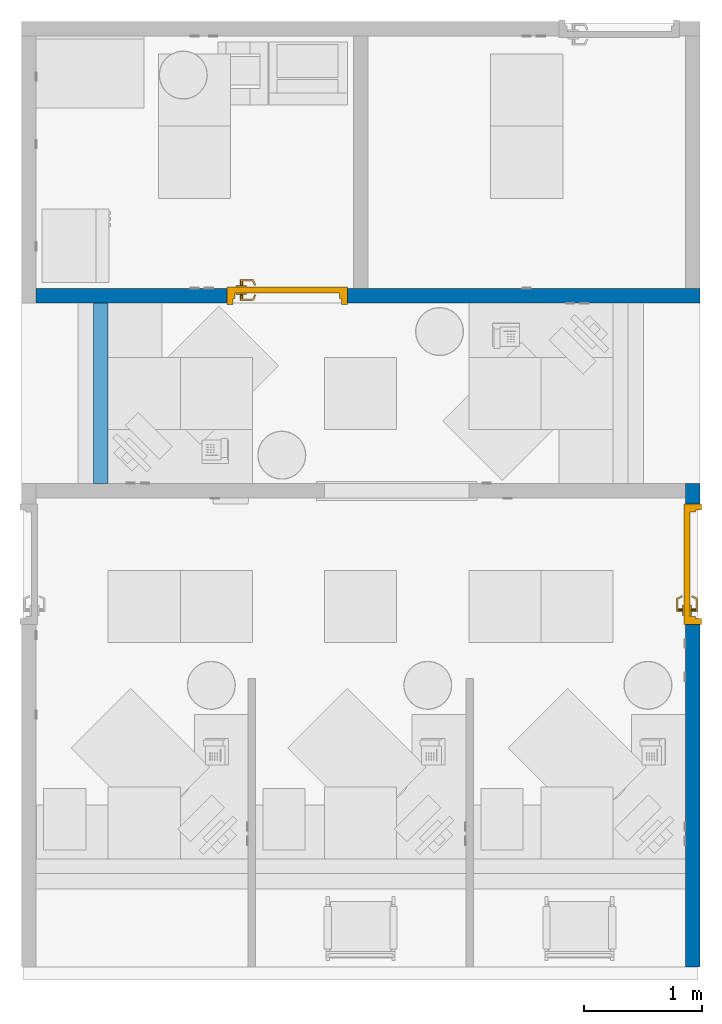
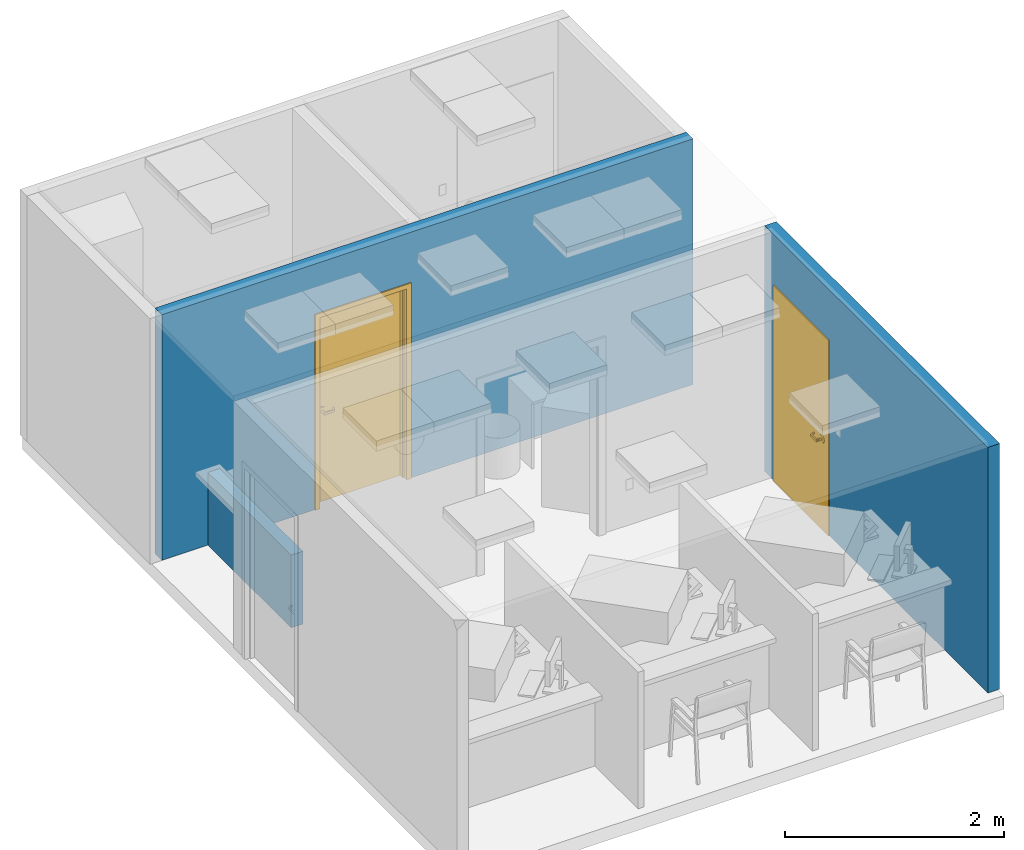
# One storey, part 3 of 20: 3 walls, 2 doors, 2 openings.
"""IFC2X3 building model written with IfcOpenShell, lengths in feet."""

from ifc_helpers import new_model, entity, si_unit, converted_unit, derived_unit, direction, frame, frame_2d, origin, place, context, subcontext, project, spatial, rectangle, extrude, faceted_brep, source, transform, mapped, material, layer, layer_set, layer_usage, type_object, type_shapes, element, fill, save


model = new_model("IFC2X3")

# Units and contexts
model_context = context("Model", 3, precision=0.0001, world=origin(), true_north=direction((6.12303176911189e-17, 1.0)))
body_context = subcontext(model_context, "Body", "Model", "MODEL_VIEW")
ifc_project = project(units=[converted_unit("LENGTHUNIT", "FOOT", entity("IfcRatioMeasure", 0.3048), si_unit("LENGTHUNIT", "METRE"), dimensions=[1, 0, 0, 0, 0, 0, 0]), converted_unit("AREAUNIT", "SQUARE FOOT", entity("IfcRatioMeasure", 0.09290304), si_unit("AREAUNIT", "SQUARE_METRE"), dimensions=[2, 0, 0, 0, 0, 0, 0]), converted_unit("VOLUMEUNIT", "CUBIC FOOT", entity("IfcRatioMeasure", 0.028316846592), si_unit("VOLUMEUNIT", "CUBIC_METRE"), dimensions=[3, 0, 0, 0, 0, 0, 0]), converted_unit("PLANEANGLEUNIT", "DEGREE", entity("IfcRatioMeasure", 0.0174532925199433), si_unit("PLANEANGLEUNIT", "RADIAN"), dimensions=[0, 0, 0, 0, 0, 0, 0]), si_unit("MASSUNIT", "GRAM", prefix="KILO"), derived_unit("MASSDENSITYUNIT", [(si_unit("MASSUNIT", "GRAM", prefix="KILO"), 1), (si_unit("LENGTHUNIT", "METRE"), -3)]), si_unit("TIMEUNIT", "SECOND"), si_unit("FREQUENCYUNIT", "HERTZ"), si_unit("THERMODYNAMICTEMPERATUREUNIT", "DEGREE_CELSIUS"), derived_unit("THERMALTRANSMITTANCEUNIT", [(si_unit("MASSUNIT", "GRAM", prefix="KILO"), 1), (si_unit("THERMODYNAMICTEMPERATUREUNIT", "KELVIN"), -1), (si_unit("TIMEUNIT", "SECOND"), -3)]), derived_unit("VOLUMETRICFLOWRATEUNIT", [(si_unit("LENGTHUNIT", "METRE"), 3), (si_unit("TIMEUNIT", "SECOND"), -1)]), si_unit("ELECTRICCURRENTUNIT", "AMPERE"), si_unit("ELECTRICVOLTAGEUNIT", "VOLT"), si_unit("POWERUNIT", "WATT"), si_unit("FORCEUNIT", "NEWTON"), si_unit("ILLUMINANCEUNIT", "LUX"), si_unit("LUMINOUSFLUXUNIT", "LUMEN"), si_unit("LUMINOUSINTENSITYUNIT", "CANDELA"), derived_unit("USERDEFINED", [(si_unit("MASSUNIT", "GRAM", prefix="KILO"), -1), (si_unit("LENGTHUNIT", "METRE"), -2), (si_unit("TIMEUNIT", "SECOND"), 3), (si_unit("LUMINOUSFLUXUNIT", "LUMEN"), 1)]), derived_unit("LINEARVELOCITYUNIT", [(si_unit("LENGTHUNIT", "METRE"), 1), (si_unit("TIMEUNIT", "SECOND"), -1)]), si_unit("PRESSUREUNIT", "PASCAL"), derived_unit("USERDEFINED", [(si_unit("LENGTHUNIT", "METRE"), -2), (si_unit("MASSUNIT", "GRAM", prefix="KILO"), 1), (si_unit("TIMEUNIT", "SECOND"), -2)])], contexts=[model_context])

# Site, building, storey
site_placement = place(None, origin())
site = spatial("IfcSite", under=ifc_project, at=site_placement, Name="Default", CompositionType="ELEMENT")
building_placement = place(site_placement, origin())
building = spatial("IfcBuilding", under=site, at=building_placement, Name="OUTPATIENT / PACT CLINIC (Ch. 265)", CompositionType="ELEMENT")
storey_placement = place(building_placement, origin())
storey = spatial("IfcBuildingStorey", under=building, at=storey_placement, Name="DATUM", CompositionType="ELEMENT", Elevation=0.0)

# Wall, opening, door
ifc_material = material(Name="<Unnamed>")
ifc_layer = layer(ifc_material, 0.40625)
ifc_layer_set = layer_set([ifc_layer], Name="Basic Wall:Interior - 4 7/8\"")
ifc_layer_usage_1 = layer_usage(ifc_layer_set, "AXIS2", "POSITIVE", -0.203125)
wall_type = type_object("IfcWallType", Name="Basic Wall:Interior - 4 7/8\"", PredefinedType="STANDARD", material=ifc_layer_set)
wall_1_placement = place(storey_placement, frame((74.4672384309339, -867.924839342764, 0.0), z_axis=(0.0, 0.0, 1.0), x_axis=(0.0, 1.0, 0.0)))
wall_1 = element("IfcWallStandardCase", 1, at=wall_1_placement, inside=storey, type_object=wall_type, material=ifc_layer_usage_1, Name="Basic Wall:Interior - 4 7/8\"", ObjectType="Basic Wall:Interior - 4 7/8\"", context=body_context, shape_type="SweptSolid", body=[
    extrude(rectangle(XDim=13.40625, YDim=0.40625, at=frame_2d((6.703125, -2.05391259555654e-15), x_axis=(-1.0, 0.0))), origin(), (0.0, 0.0, 1.0), 9.0),
])
opening_1_placement = place(wall_1_placement, frame((9.49999999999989, -0.203125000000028, 0.0)))
opening_1 = element("IfcOpeningElement", 2, at=opening_1_placement, cuts=wall_1, Name="Single - Flush:36\" x 84\":1", ObjectType="Opening", context=body_context, shape_type="SweptSolid", body=[
    extrude(rectangle(XDim=3.33333333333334, YDim=7.16666666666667, at=frame_2d((3.58333333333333, 1.66666666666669), x_axis=(0.0, 1.0))), frame((0.0, 0.0, 0.0), z_axis=(0.0, 1.0, 0.0), x_axis=(0.0, 0.0, 1.0)), (0.0, 0.0, 1.0), 0.40625),
])
door_style = type_object("IfcDoorStyle", Name="36\" x 84\"", ConstructionType="NOTDEFINED", OperationType="NOTDEFINED", ParameterTakesPrecedence=False, Sizeable=False)
shared_shape = source(origin(), body_context, "Body", "Brep", [
    faceted_brep([(-2.57149311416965, 0.23636872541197, 3.3541666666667), (-2.57149311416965, 0.23636872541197, 3.31250000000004), (-2.62432039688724, 0.12308025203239, 3.30208333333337), (-2.63071126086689, 0.109375, 3.30208333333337), (-2.63071126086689, 0.109375, 3.36458333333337), (-2.62432039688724, 0.123080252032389, 3.36458333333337), (-2.53373028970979, 0.218759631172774, 3.3541666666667), (-2.58655757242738, 0.105471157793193, 3.36458333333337), (-2.60416666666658, 0.0677083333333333, 3.36458333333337), (-2.60416666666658, 0.0677083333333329, 3.30208333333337), (-2.58655757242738, 0.105471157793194, 3.30208333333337), (-2.53373028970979, 0.218759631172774, 3.31250000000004), (-2.60416666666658, 0.109375, 3.30208333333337), (-2.60416666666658, 0.109375, 3.36458333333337), (-2.93619600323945, 0.0677083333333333, 3.29168707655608), (-2.93619600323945, 0.0677083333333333, 3.37497959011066), (-2.94639661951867, 0.0677083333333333, 3.37403912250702), (-2.95605949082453, 0.0677083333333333, 3.37063824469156), (-2.96460055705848, 0.0677083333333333, 3.36498251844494), (-2.97150356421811, 0.0677083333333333, 3.35741379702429), (-2.97635126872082, 0.0677083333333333, 3.34838956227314), (-2.97885065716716, 0.0677083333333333, 3.33845527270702), (-2.97885065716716, 0.0677083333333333, 3.32821139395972), (-2.97635126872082, 0.0677083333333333, 3.31827710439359), (-2.97150356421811, 0.0677083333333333, 3.30925286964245), (-2.96460055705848, 0.0677083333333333, 3.3016841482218), (-2.95605949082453, 0.0677083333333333, 3.29602842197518), (-2.94639661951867, 0.0677083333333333, 3.29262754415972), (-2.93619600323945, 0.109375, 3.29168707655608), (-2.92566985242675, 0.109375, 3.29338137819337), (-2.91591827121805, 0.109375, 3.29769150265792), (-2.90757973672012, 0.109375, 3.30433524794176), (-2.90120020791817, 0.109375, 3.31287762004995), (-2.89719737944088, 0.109375, 3.32275931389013), (-2.89583333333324, 0.109375, 3.33333333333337), (-2.89719737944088, 0.109375, 3.34390735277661), (-2.90120020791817, 0.109375, 3.35378904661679), (-2.90757973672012, 0.109375, 3.36233141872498), (-2.91591827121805, 0.109375, 3.36897516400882), (-2.92566985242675, 0.109375, 3.37328528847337), (-2.93619600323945, 0.109375, 3.37497959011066), (-2.94568224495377, 0.109375, 3.29247795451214), (-2.95473886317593, 0.109375, 3.2954000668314), (-2.96972778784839, 0.109375, 3.30692347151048), (-2.96289592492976, 0.109375, 3.30030065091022), (-2.97487870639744, 0.109375, 3.31492291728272), (-2.97808054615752, 0.109375, 3.32388185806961), (-2.97916666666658, 0.109375, 3.33333333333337), (-2.97808054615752, 0.109375, 3.34278480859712), (-2.97487870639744, 0.109375, 3.35174374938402), (-2.96289592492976, 0.109375, 3.36636601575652), (-2.96972778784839, 0.109375, 3.35974319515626), (-2.95473886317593, 0.109375, 3.37126659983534), (-2.94568224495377, 0.109375, 3.3741887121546), (-2.97916666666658, 0.234375, 3.33333333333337), (-2.97774690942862, 0.234375, 3.34411746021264), (-2.97358439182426, 0.234375, 3.3541666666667), (-2.95833333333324, 0.234375, 3.36941772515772), (-2.96696278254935, 0.234375, 3.36279611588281), (-2.94828412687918, 0.234375, 3.37358024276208), (-2.93749999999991, 0.234375, 3.37500000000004), (-2.92671587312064, 0.234375, 3.37358024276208), (-2.91666666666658, 0.234375, 3.36941772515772), (-2.90141560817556, 0.234375, 3.3541666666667), (-2.90803721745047, 0.234375, 3.36279611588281), (-2.8972530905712, 0.234375, 3.34411746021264), (-2.89583333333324, 0.234375, 3.33333333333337), (-2.8972530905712, 0.234375, 3.3225492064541), (-2.90141560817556, 0.234375, 3.31250000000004), (-2.91666666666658, 0.234375, 3.29724894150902), (-2.90803721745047, 0.234375, 3.30387055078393), (-2.92671587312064, 0.234375, 3.29308642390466), (-2.93749999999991, 0.234375, 3.2916666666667), (-2.94828412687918, 0.234375, 3.29308642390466), (-2.95833333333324, 0.234375, 3.29724894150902), (-2.97358439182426, 0.234375, 3.31250000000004), (-2.96696278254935, 0.234375, 3.30387055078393), (-2.97774690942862, 0.234375, 3.3225492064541), (-2.86458333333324, 0.234375, 3.4596287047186), (-2.83438026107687, 0.234375, 3.43645307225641), (-2.89975555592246, 0.234375, 3.47419751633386), (-2.93749999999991, 0.234375, 3.4791666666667), (-2.97524444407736, 0.234375, 3.47419751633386), (-3.01041666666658, 0.234375, 3.4596287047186), (-3.04061973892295, 0.234375, 3.43645307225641), (-3.06379537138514, 0.234375, 3.40625000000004), (-3.0783641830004, 0.234375, 3.37107777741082), (-3.08333333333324, 0.234375, 3.33333333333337), (-3.0783641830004, 0.234375, 3.29558888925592), (-3.06379537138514, 0.234375, 3.2604166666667), (-3.04061973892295, 0.234375, 3.23021359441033), (-3.01041666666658, 0.234375, 3.20703796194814), (-2.97524444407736, 0.234375, 3.19246915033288), (-2.93749999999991, 0.234375, 3.18750000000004), (-2.89975555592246, 0.234375, 3.19246915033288), (-2.86458333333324, 0.234375, 3.20703796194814), (-2.83438026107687, 0.234375, 3.23021359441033), (-2.81120462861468, 0.234375, 3.2604166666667), (-2.79663581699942, 0.234375, 3.29558888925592), (-2.79166666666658, 0.234375, 3.33333333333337), (-2.79663581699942, 0.234375, 3.37107777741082), (-2.81120462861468, 0.234375, 3.40625000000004), (-2.89975555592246, 0.276041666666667, 3.19246915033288), (-2.93749999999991, 0.276041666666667, 3.18750000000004), (-2.97524444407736, 0.276041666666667, 3.19246915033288), (-3.01041666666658, 0.276041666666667, 3.20703796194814), (-3.04061973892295, 0.276041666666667, 3.23021359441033), (-3.06379537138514, 0.276041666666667, 3.2604166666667), (-3.0783641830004, 0.276041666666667, 3.29558888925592), (-3.08333333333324, 0.276041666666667, 3.33333333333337), (-3.0783641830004, 0.276041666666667, 3.37107777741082), (-3.06379537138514, 0.276041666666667, 3.40625000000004), (-3.04061973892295, 0.276041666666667, 3.43645307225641), (-3.01041666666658, 0.276041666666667, 3.4596287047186), (-2.97524444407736, 0.276041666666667, 3.47419751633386), (-2.93749999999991, 0.276041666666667, 3.4791666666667), (-2.89975555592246, 0.276041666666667, 3.47419751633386), (-2.86458333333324, 0.276041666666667, 3.4596287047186), (-2.83438026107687, 0.276041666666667, 3.43645307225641), (-2.81120462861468, 0.276041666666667, 3.40625000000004), (-2.79663581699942, 0.276041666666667, 3.37107777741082), (-2.79166666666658, 0.276041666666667, 3.33333333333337), (-2.79663581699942, 0.276041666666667, 3.29558888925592), (-2.81120462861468, 0.276041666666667, 3.2604166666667), (-2.83438026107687, 0.276041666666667, 3.23021359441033), (-2.86458333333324, 0.276041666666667, 3.20703796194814)], [[[0, 1, 2, 3, 4, 5]], [[6, 7, 8, 9, 10, 11]], [[12, 3, 2, 10, 9]], [[11, 10, 2, 1]], [[11, 1, 0, 6]], [[7, 6, 0, 5]], [[13, 8, 7, 5, 4]], [[14, 9, 8, 15, 16, 17, 18, 19, 20, 21, 22, 23, 24, 25, 26, 27]], [[3, 12, 28, 29, 30, 31, 32, 33, 34, 35, 36, 37, 38, 39, 40, 13, 4]], [[28, 12, 9, 14]], [[28, 14, 41]], [[41, 27, 42]], [[43, 44, 25]], [[24, 45, 43]], [[26, 44, 42]], [[45, 23, 46]], [[27, 26, 42]], [[41, 14, 27]], [[45, 24, 23]], [[24, 43, 25]], [[44, 26, 25]], [[46, 23, 22]], [[22, 47, 46]], [[47, 21, 48]], [[48, 20, 49]], [[50, 51, 18]], [[17, 52, 50]], [[19, 51, 49]], [[52, 16, 53]], [[51, 19, 18]], [[49, 20, 19]], [[48, 21, 20]], [[53, 16, 15]], [[16, 52, 17]], [[50, 18, 17]], [[40, 53, 15]], [[22, 21, 47]], [[40, 15, 8, 13]], [[54, 48, 55]], [[55, 49, 56]], [[57, 58, 50]], [[51, 58, 56]], [[59, 57, 52]], [[48, 49, 55]], [[54, 47, 48]], [[57, 50, 52]], [[50, 58, 51]], [[56, 49, 51]], [[59, 52, 53]], [[53, 60, 59]], [[60, 40, 61]], [[61, 39, 62]], [[63, 64, 37]], [[36, 65, 63]], [[38, 64, 62]], [[65, 35, 66]], [[39, 38, 62]], [[61, 40, 39]], [[65, 36, 35]], [[36, 63, 37]], [[64, 38, 37]], [[66, 35, 34]], [[53, 40, 60]], [[66, 33, 67]], [[67, 32, 68]], [[69, 70, 30]], [[31, 70, 68]], [[71, 69, 29]], [[33, 32, 67]], [[66, 34, 33]], [[69, 30, 29]], [[30, 70, 31]], [[68, 32, 31]], [[71, 29, 28]], [[28, 72, 71]], [[72, 41, 73]], [[73, 42, 74]], [[75, 76, 43]], [[45, 77, 75]], [[44, 76, 74]], [[77, 46, 54]], [[42, 44, 74]], [[73, 41, 42]], [[77, 45, 46]], [[45, 75, 43]], [[76, 44, 43]], [[54, 46, 47]], [[28, 41, 72]], [[78, 61, 62]], [[78, 62, 79]], [[78, 80, 61]], [[60, 61, 80]], [[81, 60, 80]], [[60, 81, 59]], [[82, 59, 81]], [[82, 57, 59]], [[57, 82, 83]], [[57, 83, 58]], [[84, 58, 83]], [[58, 84, 56]], [[56, 84, 85]], [[56, 85, 55]], [[55, 85, 86]], [[54, 55, 86]], [[87, 54, 86]], [[77, 54, 87]], [[88, 77, 87]], [[75, 77, 88]], [[89, 75, 88]], [[75, 89, 90]], [[76, 75, 90]], [[90, 91, 76]], [[91, 74, 76]], [[74, 91, 92]], [[74, 92, 73]], [[92, 93, 73]], [[72, 73, 93]], [[93, 94, 72]], [[72, 94, 71]], [[95, 71, 94]], [[71, 95, 69]], [[69, 95, 96]], [[70, 69, 96]], [[97, 70, 96]], [[68, 70, 97]], [[98, 68, 97]], [[68, 98, 67]], [[67, 98, 99]], [[99, 66, 67]], [[99, 100, 66]], [[65, 66, 100]], [[101, 65, 100]], [[64, 101, 79]], [[101, 63, 65]], [[63, 101, 64]], [[64, 79, 62]], [[102, 103, 104, 105, 106, 107, 108, 109, 110, 111, 112, 113, 114, 115, 116, 117, 118, 119, 120, 121, 122, 123, 124, 125]], [[109, 87, 86, 110]], [[110, 86, 85, 111]], [[113, 112, 84, 83]], [[84, 112, 111, 85]], [[114, 113, 83, 82]], [[114, 82, 81, 115]], [[115, 81, 80, 116]], [[116, 80, 78, 117]], [[119, 118, 79, 101]], [[79, 118, 117, 78]], [[120, 119, 101, 100]], [[120, 100, 99, 121]], [[121, 99, 98, 122]], [[122, 98, 97, 123]], [[125, 124, 96, 95]], [[96, 124, 123, 97]], [[102, 125, 95, 94]], [[102, 94, 93, 103]], [[103, 93, 92, 104]], [[104, 92, 91, 105]], [[107, 106, 90, 89]], [[90, 106, 105, 91]], [[108, 107, 89, 88]], [[108, 88, 87, 109]]]),
    faceted_brep([(-2.57149311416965, 0.482381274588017, 3.31249999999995), (-2.57149311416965, 0.482381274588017, 3.35416666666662), (-2.62432039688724, 0.595669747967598, 3.36458333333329), (-2.63071126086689, 0.609374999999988, 3.36458333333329), (-2.63071126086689, 0.609374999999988, 3.30208333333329), (-2.62432039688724, 0.595669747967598, 3.30208333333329), (-2.53373028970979, 0.499990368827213, 3.31249999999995), (-2.58655757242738, 0.613278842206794, 3.30208333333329), (-2.60416666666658, 0.651041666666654, 3.30208333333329), (-2.60416666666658, 0.651041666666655, 3.36458333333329), (-2.58655757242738, 0.613278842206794, 3.36458333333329), (-2.53373028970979, 0.499990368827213, 3.35416666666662), (-2.60416666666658, 0.609374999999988, 3.36458333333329), (-2.60416666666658, 0.609374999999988, 3.30208333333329), (-2.93619600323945, 0.651041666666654, 3.37497959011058), (-2.93619600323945, 0.651041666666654, 3.291687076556), (-2.94639661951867, 0.651041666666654, 3.29262754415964), (-2.95605949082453, 0.651041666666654, 3.2960284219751), (-2.96460055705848, 0.651041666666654, 3.30168414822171), (-2.97150356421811, 0.651041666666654, 3.30925286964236), (-2.97635126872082, 0.651041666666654, 3.31827710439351), (-2.97885065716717, 0.651041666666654, 3.32821139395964), (-2.97885065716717, 0.651041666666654, 3.33845527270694), (-2.97635126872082, 0.651041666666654, 3.34838956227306), (-2.97150356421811, 0.651041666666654, 3.35741379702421), (-2.96460055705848, 0.651041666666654, 3.36498251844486), (-2.95605949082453, 0.651041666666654, 3.37063824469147), (-2.94639661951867, 0.651041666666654, 3.37403912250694), (-2.93619600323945, 0.609374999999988, 3.37497959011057), (-2.92566985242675, 0.609374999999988, 3.37328528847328), (-2.91591827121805, 0.609374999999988, 3.36897516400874), (-2.90757973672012, 0.609374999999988, 3.3623314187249), (-2.90120020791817, 0.609374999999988, 3.35378904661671), (-2.89719737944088, 0.609374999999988, 3.34390735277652), (-2.89583333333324, 0.609374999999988, 3.33333333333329), (-2.89719737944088, 0.609374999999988, 3.32275931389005), (-2.90120020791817, 0.609374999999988, 3.31287762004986), (-2.90757973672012, 0.609374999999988, 3.30433524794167), (-2.91591827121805, 0.609374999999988, 3.29769150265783), (-2.92566985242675, 0.609374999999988, 3.29338137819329), (-2.93619600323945, 0.609374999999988, 3.291687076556), (-2.94568224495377, 0.609374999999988, 3.37418871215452), (-2.95473886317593, 0.609374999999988, 3.37126659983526), (-2.96972778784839, 0.609374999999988, 3.35974319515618), (-2.96289592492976, 0.609374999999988, 3.36636601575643), (-2.97487870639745, 0.609374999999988, 3.35174374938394), (-2.97808054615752, 0.609374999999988, 3.34278480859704), (-2.97916666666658, 0.609374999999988, 3.33333333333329), (-2.97808054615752, 0.609374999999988, 3.32388185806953), (-2.97487870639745, 0.609374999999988, 3.31492291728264), (-2.96289592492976, 0.609374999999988, 3.30030065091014), (-2.96972778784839, 0.609374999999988, 3.30692347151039), (-2.95473886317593, 0.609374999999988, 3.29540006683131), (-2.94568224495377, 0.609374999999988, 3.29247795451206), (-2.97916666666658, 0.484374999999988, 3.33333333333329), (-2.97774690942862, 0.484374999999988, 3.32254920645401), (-2.97358439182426, 0.484374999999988, 3.31249999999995), (-2.95833333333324, 0.484374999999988, 3.29724894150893), (-2.96696278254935, 0.484374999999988, 3.30387055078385), (-2.94828412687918, 0.484374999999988, 3.29308642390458), (-2.93749999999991, 0.484374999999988, 3.29166666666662), (-2.92671587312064, 0.484374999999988, 3.29308642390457), (-2.91666666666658, 0.484374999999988, 3.29724894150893), (-2.90141560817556, 0.484374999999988, 3.31249999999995), (-2.90803721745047, 0.484374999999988, 3.30387055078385), (-2.8972530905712, 0.484374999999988, 3.32254920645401), (-2.89583333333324, 0.484374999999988, 3.33333333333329), (-2.8972530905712, 0.484374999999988, 3.34411746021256), (-2.90141560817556, 0.484374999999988, 3.35416666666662), (-2.91666666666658, 0.484374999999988, 3.36941772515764), (-2.90803721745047, 0.484374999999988, 3.36279611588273), (-2.92671587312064, 0.484374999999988, 3.373580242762), (-2.93749999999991, 0.484374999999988, 3.37499999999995), (-2.94828412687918, 0.484374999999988, 3.373580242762), (-2.95833333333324, 0.484374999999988, 3.36941772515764), (-2.97358439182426, 0.484374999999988, 3.35416666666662), (-2.96696278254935, 0.484374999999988, 3.36279611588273), (-2.97774690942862, 0.484374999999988, 3.34411746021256), (-2.86458333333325, 0.484374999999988, 3.20703796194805), (-2.83438026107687, 0.484374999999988, 3.23021359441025), (-2.89975555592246, 0.484374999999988, 3.1924691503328), (-2.93749999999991, 0.484374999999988, 3.18749999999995), (-2.97524444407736, 0.484374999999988, 3.1924691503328), (-3.01041666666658, 0.484374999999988, 3.20703796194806), (-3.04061973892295, 0.484374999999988, 3.23021359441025), (-3.06379537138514, 0.484374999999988, 3.26041666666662), (-3.0783641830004, 0.484374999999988, 3.29558888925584), (-3.08333333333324, 0.484374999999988, 3.33333333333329), (-3.0783641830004, 0.484374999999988, 3.37107777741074), (-3.06379537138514, 0.484374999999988, 3.40624999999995), (-3.04061973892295, 0.484374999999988, 3.43645307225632), (-3.01041666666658, 0.484374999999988, 3.45962870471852), (-2.97524444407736, 0.484374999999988, 3.47419751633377), (-2.93749999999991, 0.484374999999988, 3.47916666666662), (-2.89975555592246, 0.484374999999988, 3.47419751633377), (-2.86458333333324, 0.484374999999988, 3.45962870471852), (-2.83438026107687, 0.484374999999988, 3.43645307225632), (-2.81120462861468, 0.484374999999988, 3.40624999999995), (-2.79663581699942, 0.484374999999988, 3.37107777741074), (-2.79166666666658, 0.484374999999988, 3.33333333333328), (-2.79663581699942, 0.484374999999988, 3.29558888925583), (-2.81120462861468, 0.484374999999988, 3.26041666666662), (-2.89975555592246, 0.442708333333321, 3.47419751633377), (-2.93749999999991, 0.442708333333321, 3.47916666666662), (-2.97524444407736, 0.442708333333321, 3.47419751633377), (-3.01041666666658, 0.442708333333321, 3.45962870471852), (-3.04061973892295, 0.442708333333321, 3.43645307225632), (-3.06379537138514, 0.442708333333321, 3.40624999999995), (-3.0783641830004, 0.442708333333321, 3.37107777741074), (-3.08333333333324, 0.442708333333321, 3.33333333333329), (-3.0783641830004, 0.442708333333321, 3.29558888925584), (-3.06379537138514, 0.442708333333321, 3.26041666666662), (-3.04061973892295, 0.442708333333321, 3.23021359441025), (-3.01041666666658, 0.442708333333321, 3.20703796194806), (-2.97524444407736, 0.442708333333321, 3.1924691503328), (-2.93749999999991, 0.442708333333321, 3.18749999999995), (-2.89975555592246, 0.442708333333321, 3.1924691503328), (-2.86458333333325, 0.442708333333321, 3.20703796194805), (-2.83438026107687, 0.442708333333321, 3.23021359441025), (-2.81120462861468, 0.442708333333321, 3.26041666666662), (-2.79663581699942, 0.442708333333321, 3.29558888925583), (-2.79166666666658, 0.442708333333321, 3.33333333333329), (-2.79663581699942, 0.442708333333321, 3.37107777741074), (-2.81120462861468, 0.442708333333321, 3.40624999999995), (-2.83438026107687, 0.442708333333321, 3.43645307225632), (-2.86458333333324, 0.442708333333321, 3.45962870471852)], [[[0, 1, 2, 3, 4, 5]], [[6, 7, 8, 9, 10, 11]], [[12, 3, 2, 10, 9]], [[11, 10, 2, 1]], [[11, 1, 0, 6]], [[7, 6, 0, 5]], [[13, 8, 7, 5, 4]], [[14, 9, 8, 15, 16, 17, 18, 19, 20, 21, 22, 23, 24, 25, 26, 27]], [[3, 12, 28, 29, 30, 31, 32, 33, 34, 35, 36, 37, 38, 39, 40, 13, 4]], [[28, 12, 9, 14]], [[28, 14, 41]], [[41, 27, 42]], [[43, 44, 25]], [[24, 45, 43]], [[26, 44, 42]], [[45, 23, 46]], [[27, 26, 42]], [[41, 14, 27]], [[45, 24, 23]], [[24, 43, 25]], [[44, 26, 25]], [[46, 23, 22]], [[22, 47, 46]], [[47, 21, 48]], [[48, 20, 49]], [[50, 51, 18]], [[17, 52, 50]], [[19, 51, 49]], [[52, 16, 53]], [[51, 19, 18]], [[49, 20, 19]], [[48, 21, 20]], [[53, 16, 15]], [[16, 52, 17]], [[50, 18, 17]], [[40, 53, 15]], [[22, 21, 47]], [[40, 15, 8, 13]], [[54, 48, 55]], [[55, 49, 56]], [[57, 58, 50]], [[51, 58, 56]], [[59, 57, 52]], [[48, 49, 55]], [[54, 47, 48]], [[57, 50, 52]], [[50, 58, 51]], [[56, 49, 51]], [[59, 52, 53]], [[53, 60, 59]], [[60, 40, 61]], [[61, 39, 62]], [[63, 64, 37]], [[36, 65, 63]], [[38, 64, 62]], [[65, 35, 66]], [[39, 38, 62]], [[61, 40, 39]], [[65, 36, 35]], [[36, 63, 37]], [[64, 38, 37]], [[66, 35, 34]], [[53, 40, 60]], [[66, 33, 67]], [[67, 32, 68]], [[69, 70, 30]], [[31, 70, 68]], [[71, 69, 29]], [[33, 32, 67]], [[66, 34, 33]], [[69, 30, 29]], [[30, 70, 31]], [[68, 32, 31]], [[71, 29, 28]], [[28, 72, 71]], [[72, 41, 73]], [[73, 42, 74]], [[75, 76, 43]], [[45, 77, 75]], [[44, 76, 74]], [[77, 46, 54]], [[42, 44, 74]], [[73, 41, 42]], [[77, 45, 46]], [[45, 75, 43]], [[76, 44, 43]], [[54, 46, 47]], [[28, 41, 72]], [[78, 61, 62]], [[78, 62, 79]], [[78, 80, 61]], [[60, 61, 80]], [[81, 60, 80]], [[60, 81, 59]], [[82, 59, 81]], [[82, 57, 59]], [[57, 82, 83]], [[57, 83, 58]], [[84, 58, 83]], [[58, 84, 56]], [[56, 84, 85]], [[56, 85, 55]], [[55, 85, 86]], [[54, 55, 86]], [[87, 54, 86]], [[77, 54, 87]], [[88, 77, 87]], [[75, 77, 88]], [[89, 75, 88]], [[75, 89, 90]], [[76, 75, 90]], [[90, 91, 76]], [[91, 74, 76]], [[74, 91, 92]], [[74, 92, 73]], [[92, 93, 73]], [[72, 73, 93]], [[93, 94, 72]], [[72, 94, 71]], [[95, 71, 94]], [[71, 95, 69]], [[69, 95, 96]], [[70, 69, 96]], [[97, 70, 96]], [[68, 70, 97]], [[98, 68, 97]], [[68, 98, 67]], [[67, 98, 99]], [[99, 66, 67]], [[99, 100, 66]], [[65, 66, 100]], [[101, 65, 100]], [[64, 101, 79]], [[101, 63, 65]], [[63, 101, 64]], [[64, 79, 62]], [[102, 103, 104, 105, 106, 107, 108, 109, 110, 111, 112, 113, 114, 115, 116, 117, 118, 119, 120, 121, 122, 123, 124, 125]], [[109, 87, 86, 110]], [[110, 86, 85, 111]], [[113, 112, 84, 83]], [[84, 112, 111, 85]], [[114, 113, 83, 82]], [[114, 82, 81, 115]], [[115, 81, 80, 116]], [[116, 80, 78, 117]], [[119, 118, 79, 101]], [[79, 118, 117, 78]], [[120, 119, 101, 100]], [[120, 100, 99, 121]], [[121, 99, 98, 122]], [[122, 98, 97, 123]], [[125, 124, 96, 95]], [[96, 124, 123, 97]], [[102, 125, 95, 94]], [[102, 94, 93, 103]], [[103, 93, 92, 104]], [[104, 92, 91, 105]], [[107, 106, 90, 89]], [[90, 106, 105, 91]], [[108, 107, 89, 88]], [[108, 88, 87, 109]]]),
    faceted_brep([(-0.166666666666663, 0.442708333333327, 7.0), (-0.166666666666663, 0.442708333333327, 0.0), (-3.16666666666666, 0.442708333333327, 0.0), (-3.16666666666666, 0.442708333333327, 7.0), (-0.166666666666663, 0.276041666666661, 7.0), (-3.16666666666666, 0.276041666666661, 7.0), (-3.16666666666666, 0.276041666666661, 0.0), (-0.166666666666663, 0.276041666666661, 0.0)], [[[0, 1, 2, 3]], [[4, 5, 6, 7]], [[3, 5, 4, 0]], [[2, 6, 5, 3]], [[1, 7, 6, 2]], [[0, 4, 7, 1]]]),
    faceted_brep([(-0.166666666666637, 0.442708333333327, 0.0), (0.0, 0.442708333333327, 0.0), (0.0, -0.0364583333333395, 0.0), (-0.166666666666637, -0.0364583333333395, 0.0), (-0.166666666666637, 0.130208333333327, 0.0), (-0.218749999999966, 0.130208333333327, 0.0), (-0.218749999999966, 0.276041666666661, 0.0), (-0.166666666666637, 0.276041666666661, 0.0), (-0.166666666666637, 0.276041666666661, 7.0), (-0.166666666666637, 0.442708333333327, 7.0), (-0.218749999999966, 0.276041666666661, 6.94791666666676), (-3.11458333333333, 0.276041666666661, 6.94791666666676), (-3.11458333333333, 0.276041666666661, 0.0), (-3.16666666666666, 0.27604166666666, 0.0), (-3.16666666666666, 0.276041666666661, 7.0), (-0.218749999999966, 0.130208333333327, 6.94791666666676), (-0.166666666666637, 0.130208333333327, 7.0), (-3.16666666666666, 0.130208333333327, 7.0), (-3.16666666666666, 0.130208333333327, 0.0), (-3.11458333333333, 0.130208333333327, 0.0), (-3.11458333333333, 0.130208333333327, 6.94791666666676), (-0.166666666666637, -0.0364583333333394, 7.0), (0.0, -0.0364583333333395, 7.16666666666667), (-3.33333333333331, -0.0364583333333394, 7.16666666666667), (-3.33333333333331, -0.0364583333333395, 0.0), (-3.16666666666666, -0.0364583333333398, 0.0), (-3.16666666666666, -0.0364583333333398, 7.0), (0.0, 0.442708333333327, 7.16666666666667), (-3.16666666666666, 0.442708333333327, 7.0), (-3.16666666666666, 0.442708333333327, 0.0), (-3.33333333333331, 0.442708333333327, 0.0), (-3.33333333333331, 0.442708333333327, 7.16666666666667)], [[[0, 1, 2, 3, 4, 5, 6, 7]], [[7, 8, 9, 0]], [[6, 10, 11, 12, 13, 14, 8, 7]], [[5, 15, 10, 6]], [[4, 16, 17, 18, 19, 20, 15, 5]], [[3, 21, 16, 4]], [[2, 22, 23, 24, 25, 26, 21, 3]], [[1, 27, 22, 2]], [[0, 9, 28, 29, 30, 31, 27, 1]], [[29, 28, 14, 13]], [[29, 13, 12, 19, 18, 25, 24, 30]], [[12, 11, 20, 19]], [[17, 26, 25, 18]], [[30, 24, 23, 31]], [[14, 28, 9, 8]], [[15, 20, 11, 10]], [[21, 26, 17, 16]], [[23, 22, 27, 31]]]),
])
type_shapes(door_style, [shared_shape])
door_1_placement = place(opening_1_placement, frame((3.33333333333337, 0.0, 0.0)))
door_1 = element("IfcDoor", 3, at=door_1_placement, inside=storey, type_object=door_style, Name="Single - Flush:36\" x 84\"", ObjectType="36\" x 84\"", OverallHeight=7.16666666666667, OverallWidth=3.33333333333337, context=body_context, shape_type="MappedRepresentation", body=[
    mapped(shared_shape, transform((0.0, 0.0, 0.0), scale=1.0)),
])
fill(opening_1, door_1)

ifc_layer_usage_2 = layer_usage(ifc_layer_set, "AXIS2", "NEGATIVE", 0.203125)
wall_2_placement = place(storey_placement, frame((56.2641134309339, -849.315464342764, 0.0)))
wall_2 = element("IfcWallStandardCase", 4, at=wall_2_placement, inside=storey, type_object=wall_type, material=ifc_layer_usage_2, Name="Basic Wall:Interior - 4 7/8\"", ObjectType="Basic Wall:Interior - 4 7/8\"", context=body_context, shape_type="SweptSolid", body=[
    extrude(rectangle(XDim=18.40625, YDim=0.40625, at=frame_2d((9.20312500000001, 0.0), x_axis=(-1.0, 0.0))), origin(), (0.0, 0.0, 1.0), 9.0),
])
opening_2_placement = place(wall_2_placement, frame((5.29687500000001, -0.203125, 0.0)))
opening_2 = element("IfcOpeningElement", 5, at=opening_2_placement, cuts=wall_2, Name="Single - Flush:36\" x 84\":1", ObjectType="Opening", context=body_context, shape_type="SweptSolid", body=[
    extrude(rectangle(XDim=3.33333333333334, YDim=7.16666666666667, at=frame_2d((3.58333333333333, 1.66666666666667), x_axis=(0.0, 1.0))), frame((0.0, 0.0, 0.0), z_axis=(0.0, 1.0, 0.0), x_axis=(0.0, 0.0, 1.0)), (0.0, 0.0, 1.0), 0.40625),
])
door_2_placement = place(opening_2_placement, frame((3.33333333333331, 0.0, 0.0)))
door_2 = element("IfcDoor", 6, at=door_2_placement, inside=storey, type_object=door_style, Name="Single - Flush:36\" x 84\"", ObjectType="36\" x 84\"", OverallHeight=7.16666666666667, OverallWidth=3.33333333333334, context=body_context, shape_type="MappedRepresentation", body=[
    mapped(shared_shape, transform((0.0, 0.0, 0.0), scale=1.0)),
])
fill(opening_2, door_2)

# Wall
ifc_layer_usage_3 = layer_usage(ifc_layer_set, "AXIS2", "POSITIVE", -0.203125)
wall_3_placement = place(storey_placement, frame((58.0609884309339, -849.518589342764, 0.0), z_axis=(0.0, 0.0, 1.0), x_axis=(0.0, -1.0, 0.0)))
element("IfcWallStandardCase", 7, at=wall_3_placement, inside=storey, type_object=wall_type, material=ifc_layer_usage_3, Name="Basic Wall:Interior - 4 7/8\"", ObjectType="Basic Wall:Interior - 4 7/8\"", context=body_context, shape_type="SweptSolid", body=[
    extrude(rectangle(XDim=5.0, YDim=0.40625, at=frame_2d((2.5, 0.0), x_axis=(-1.0, 0.0))), origin(), (0.0, 0.0, 1.0), 2.66666666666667),
])

save(model, "model.ifc")
